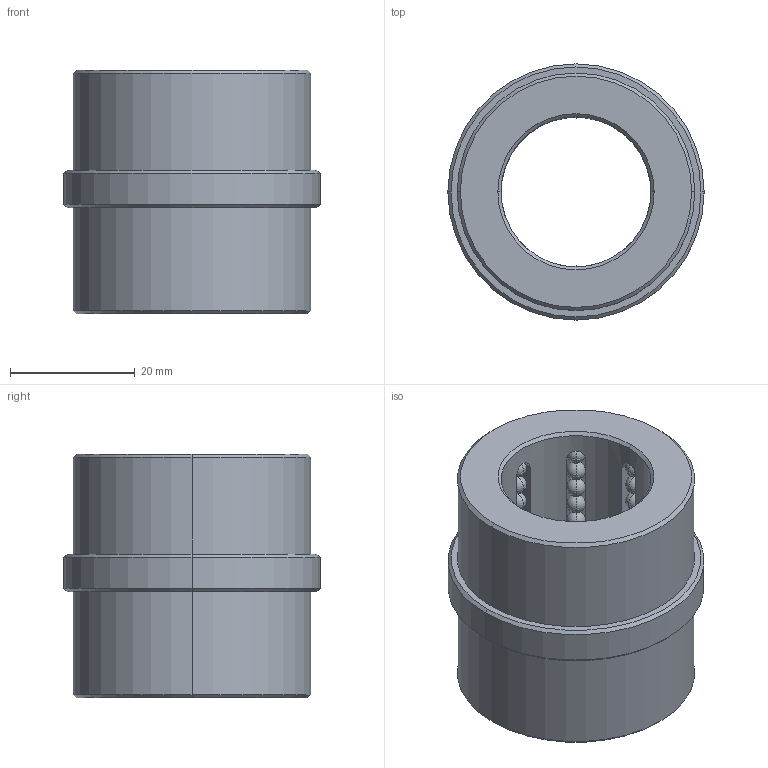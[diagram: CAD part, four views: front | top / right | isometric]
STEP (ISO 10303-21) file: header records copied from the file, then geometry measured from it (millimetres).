
FILE_DESCRIPTION((''),'2;1');
FILE_NAME('B8452422','2018-01-24T',('MANU'),(''),'PRO/ENGINEER BY PARAMETRIC TECHNOLOGY CORPORATION, 2012130','PRO/ENGINEER BY PARAMETRIC TECHNOLOGY CORPORATION, 2012130','');
FILE_SCHEMA(('CONFIG_CONTROL_DESIGN'));
Length unit declared in the file: millimetre
Products named in the file (1): B8452422
Bounding box: 41 x 41 x 39 mm (x, y, z)
Volume: 26569.3 mm3; surface area: 13054.7 mm2
Topology: 81 solids, 81 shells, 224 faces, 630 edges, 256 vertices
Faces by surface type: sphere 160, plane 28, cylinder 24, cone 12
Entity records: 5148 total; most frequent: CARTESIAN_POINT 1074, DIRECTION 942, ORIENTED_EDGE 620, AXIS2_PLACEMENT_3D 428, EDGE_CURVE 310, VERTEX_POINT 256, EDGE_LOOP 234, FACE_OUTER_BOUND 224
